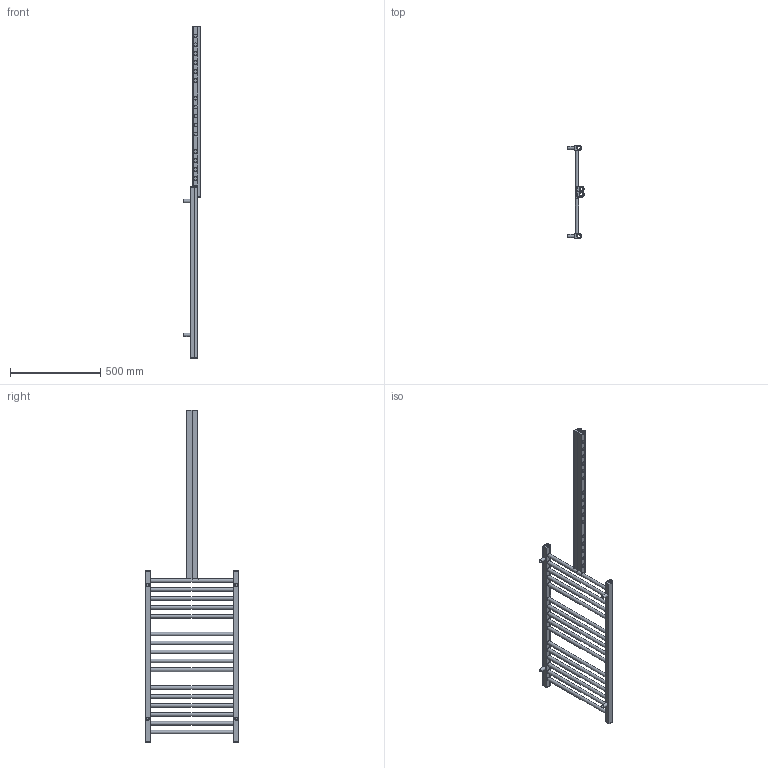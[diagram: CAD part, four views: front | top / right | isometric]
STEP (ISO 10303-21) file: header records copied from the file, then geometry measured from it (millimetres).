
FILE_DESCRIPTION( ( 'Unknown' ), '1' );
FILE_NAME( 'D:/RYSUNKI/RYSUNKI SOLID/SEJWAL/NOWE/2021/BALI/BALI.stp', 'Unknown', ( 'Unknown' ), ( 'Unknown' ), 'XStep 1.0', 'Unknown', ' ' );
FILE_SCHEMA( ( 'automotive_design' ) );
Length unit declared in the file: millimetre
Products named in the file (8): Assem1; Assem2; Assem3; Profil_U-OTW; Dekiel_G1_2; Profil_U-OTW_odb; Rurka_20x460; MOCOWANIE
Bounding box: 90 x 520 x 1844.1 mm (x, y, z)
Volume: 1575381.6 mm3; surface area: 2299405.6 mm2
Topology: 37 solids, 37 shells, 343 faces, 977 edges, 525 vertices
Faces by surface type: cylinder 179, plane 146, torus 18
Full cylindrical faces by diameter (mm): 15 x5, 17.6 x17, 18 x5, 18.631 x9, 20 x122
Entity records: 2907 total; most frequent: DIRECTION 490, CARTESIAN_POINT 420, ORIENTED_EDGE 404, EDGE_CURVE 202, AXIS2_PLACEMENT_3D 188, EDGE_LOOP 122, VERTEX_POINT 118, LINE 114
